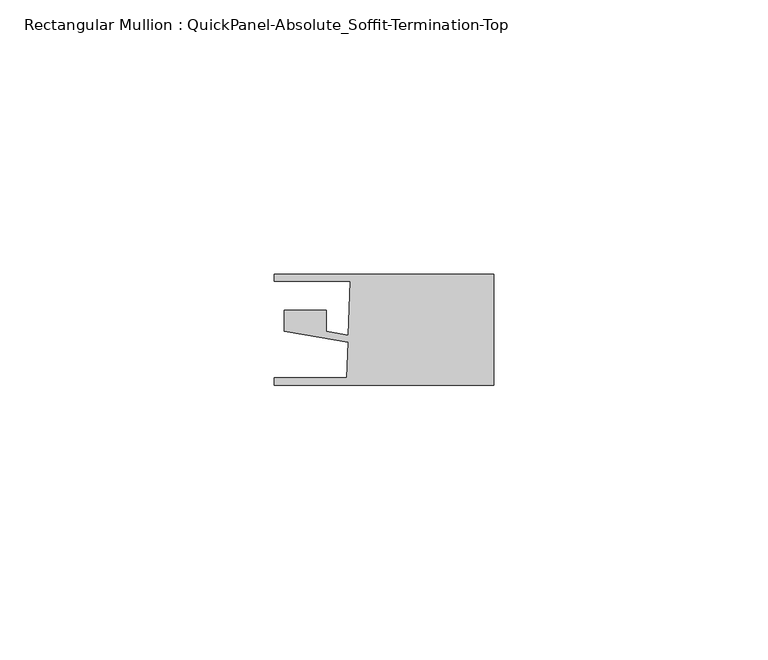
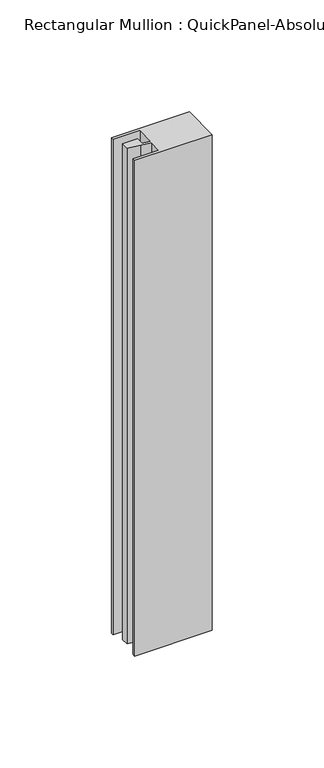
"""IFC4 building model written with IfcOpenShell, lengths in millimetres: member geometry, Rectangular Mullion : QuickPanel-Absolute_Soffit-Termination-Top."""

from ifc_helpers import new_model, si_unit, frame, origin, place, context, project, spatial, polyline, outline, extrude, source, transform, mapped, element, save


def rectangular_mullion_quickpanel_absolute_soffit_termination_206f8a84(model_context):
    return source(origin(), model_context, "Body", "SweptSolid", [
        extrude(outline(polyline([(-40.0272216, -8.095605), (-40.0272216, -6.6935423), (-26.7863089, -6.6935423), (-26.5595237, -0.1992641), (-31.8098046, 0.7008023), (-38.2451373, 1.8040245), (-38.2451373, 5.6493034), (-30.5003642, 5.6493034), (-30.5003642, 1.7648465), (-26.5147952, 1.0815922), (-26.1708682, 10.9303752), (-40.0272216, 10.9303752), (-40.0272216, 12.1803727), (0.0, 12.1803727), (0.0, -8.095605), (-40.0272216, -8.095605)])), frame((0.0, 0.0, -270.290162), z_axis=(0.0, 0.0, 1.0), x_axis=(1.0, 0.0, 0.0)), (0.0, 0.0, 1.0), 270.290162),
    ])


if __name__ == "__main__":
    model = new_model("IFC4")
    model_context = context("Model", 3, world=origin())
    ifc_project = project(units=[si_unit("LENGTHUNIT", "METRE", prefix="MILLI")], contexts=[model_context])
    site = spatial("IfcSite", under=ifc_project)
    building = spatial("IfcBuilding", under=site)
    placement = place(None, origin())
    rectangular_mullion_quickpanel_absolute_soffit_termination_shape = rectangular_mullion_quickpanel_absolute_soffit_termination_206f8a84(model_context)
    element("IfcMember", 1, ObjectType="Rectangular Mullion : QuickPanel-Absolute_Soffit-Termination-Top", at=placement, inside=building, context=model_context, shape_type="MappedRepresentation", body=[
        mapped(rectangular_mullion_quickpanel_absolute_soffit_termination_shape, transform((0.0, 0.0, 0.0), x_axis=(1.0, 0.0, 0.0), y_axis=(0.0, 1.0, 0.0), z_axis=(0.0, 0.0, 1.0))),
    ])
    save(model, "model.ifc")
